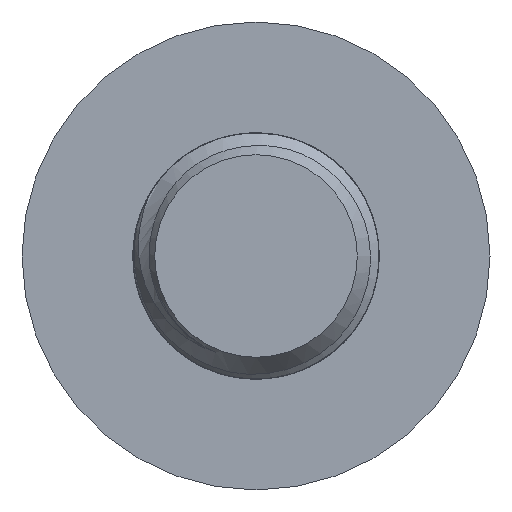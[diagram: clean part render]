
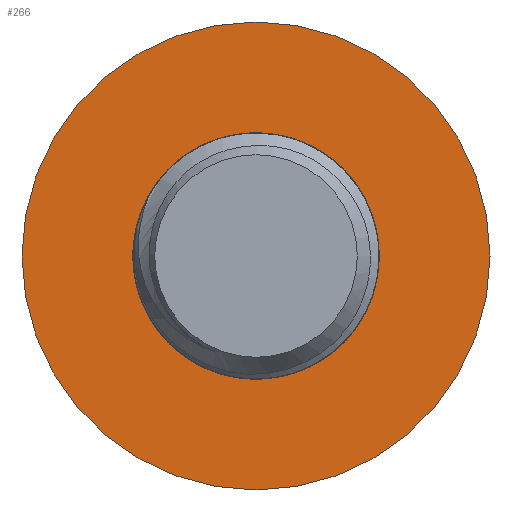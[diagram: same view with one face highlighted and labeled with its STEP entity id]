
A CAD part, left-side view. The second image highlights one B-rep face of the part: STEP entity #266.
In plain terms, the highlighted planar face has unit normal (-1, 0, 0).
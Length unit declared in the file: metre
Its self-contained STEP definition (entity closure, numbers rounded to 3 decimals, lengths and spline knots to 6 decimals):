
#17=PLANE('',#299);
#29=CIRCLE('',#298,0.0025);
#30=CIRCLE('',#300,0.00475);
#31=CIRCLE('',#301,0.0025);
#49=ORIENTED_EDGE('',*,*,#121,.F.);
#50=ORIENTED_EDGE('',*,*,#122,.T.);
#51=ORIENTED_EDGE('',*,*,#120,.T.);
#120=EDGE_CURVE('',#152,#156,#29,.T.);
#121=EDGE_CURVE('',#157,#157,#30,.T.);
#122=EDGE_CURVE('',#156,#152,#31,.T.);
#152=VERTEX_POINT('',#391);
#156=VERTEX_POINT('',#921);
#157=VERTEX_POINT('',#925);
#217=EDGE_LOOP('',(#49));
#218=EDGE_LOOP('',(#50,#51));
#240=FACE_BOUND('',#217,.T.);
#241=FACE_BOUND('',#218,.T.);
#266=ADVANCED_FACE('',(#240,#241),#17,.F.);
#298=AXIS2_PLACEMENT_3D('',#922,#326,#327);
#299=AXIS2_PLACEMENT_3D('',#923,#328,#329);
#300=AXIS2_PLACEMENT_3D('',#924,#330,#331);
#301=AXIS2_PLACEMENT_3D('',#926,#332,#333);
#326=DIRECTION('',(1.,0.,0.));
#327=DIRECTION('',(0.,-1.,0.));
#328=DIRECTION('',(1.,0.,0.));
#329=DIRECTION('',(0.,0.,-1.));
#330=DIRECTION('',(1.,0.,0.));
#331=DIRECTION('',(0.,-1.,0.));
#332=DIRECTION('',(1.,0.,0.));
#333=DIRECTION('',(0.,-1.,0.));
#391=CARTESIAN_POINT('',(0.312058,-0.00304,0.196613));
#921=CARTESIAN_POINT('',(0.312058,-0.007987,0.197122));
#922=CARTESIAN_POINT('',(0.312058,-0.00554,0.196613));
#923=CARTESIAN_POINT('',(0.312058,-0.00304,0.196613));
#924=CARTESIAN_POINT('',(0.312058,-0.00554,0.196613));
#925=CARTESIAN_POINT('',(0.312058,-0.01029,0.196613));
#926=CARTESIAN_POINT('',(0.312058,-0.00554,0.196613));
